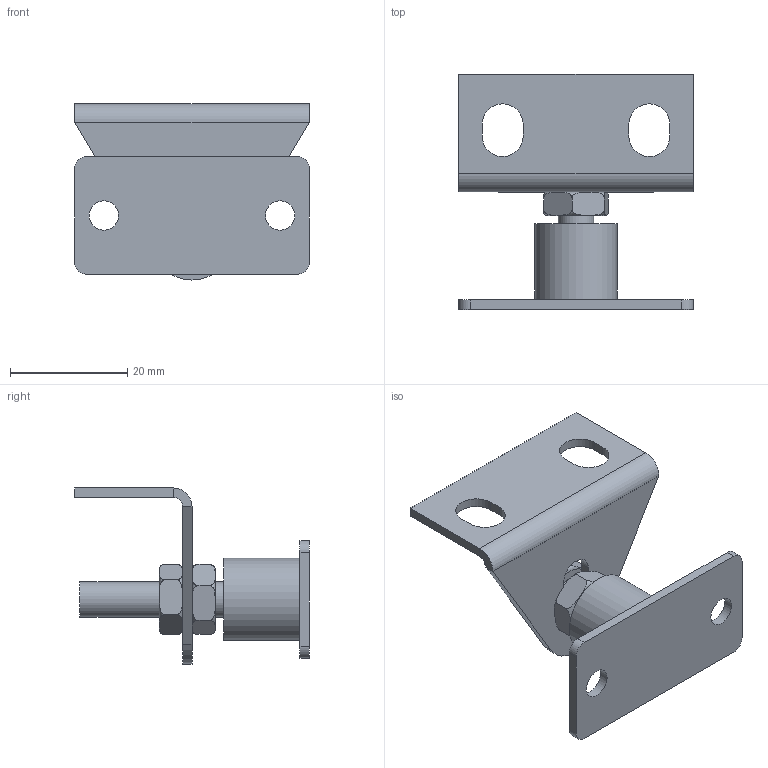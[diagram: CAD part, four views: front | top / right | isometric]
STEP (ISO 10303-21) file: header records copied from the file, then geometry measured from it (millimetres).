
FILE_DESCRIPTION(/* description */ (''),/* implementation_level */ '2;1');
FILE_NAME(/* name */ 'D:\硯聰\Inv材料庫-3D新型錄-2019整理\07.共用配件\GM-磁鐵\GM-L.stp',/* time_stamp */ '2020-03-09T15:08:31+08:00',/* author */ ('Owner'),/* organization */ (''),/* preprocessor_version */ 'ST-DEVELOPER v16.1',/* originating_system */ 'Autodesk Inventor 2016',/* authorisation */ '');
FILE_SCHEMA (('AUTOMOTIVE_DESIGN { 1 0 10303 214 3 1 1 }'));
Length unit declared in the file: millimetre
Products named in the file (1): GM-L
Bounding box: 40 x 40 x 30 mm (x, y, z)
Volume: 6387.6 mm3; surface area: 6695.3 mm2
Topology: 5 solids, 5 shells, 65 faces, 150 edges, 96 vertices
Faces by surface type: plane 42, cylinder 19, torus 4
Full cylindrical faces by diameter (mm): 5 x2, 6 x1, 7 x2, 14 x1
Entity records: 2306 total; most frequent: CARTESIAN_POINT 818, DIRECTION 290, ORIENTED_EDGE 280, EDGE_CURVE 140, AXIS2_PLACEMENT_3D 108, VERTEX_POINT 96, EDGE_LOOP 90, LINE 74
